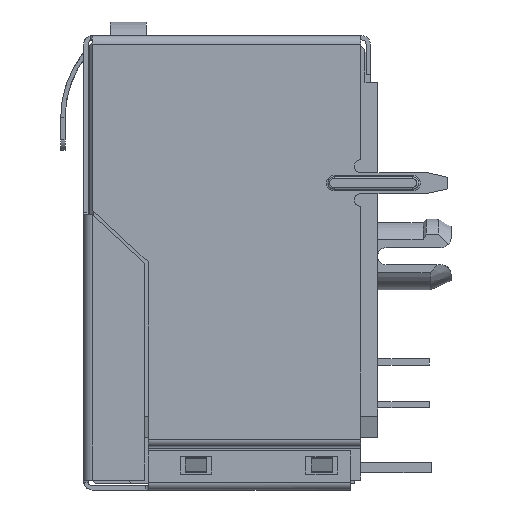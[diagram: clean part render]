
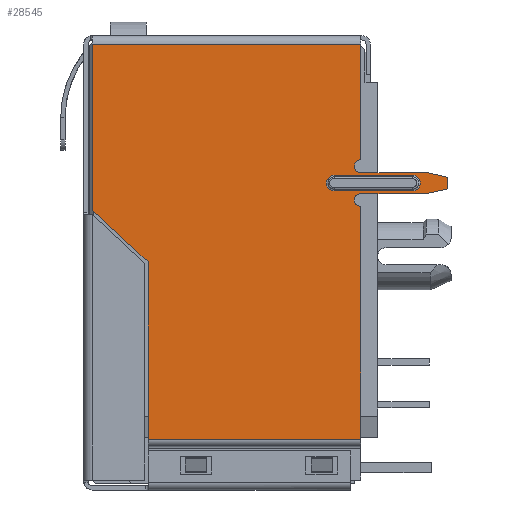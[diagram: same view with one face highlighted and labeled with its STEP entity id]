
A CAD part, left-side view. The second image highlights one B-rep face of the part: STEP entity #28545.
In plain terms, the highlighted planar face has unit normal (-1, 0, 0).
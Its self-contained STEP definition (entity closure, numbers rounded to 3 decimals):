
#5512=DIRECTION('',(0.,1.,0.));
#5513=VECTOR('',#5512,12.7);
#5514=CARTESIAN_POINT('',(-0.215,4.325,-0.15));
#5515=LINE('',#5514,#5513);
#5526=CARTESIAN_POINT('',(-0.215,4.325,-5.92));
#5527=DIRECTION('',(1.,0.,0.));
#5528=DIRECTION('',(0.,0.,-1.));
#5529=AXIS2_PLACEMENT_3D('',#5526,#5527,#5528);
#5531=DIRECTION('',(0.,0.976,0.22));
#5532=VECTOR('',#5531,1.025);
#5533=CARTESIAN_POINT('',(-0.215,0.205,-6.445));
#5534=LINE('',#5533,#5532);
#5535=DIRECTION('',(0.,-0.976,0.22));
#5536=VECTOR('',#5535,1.025);
#5537=CARTESIAN_POINT('',(-0.215,1.205,-7.22));
#5538=LINE('',#5537,#5536);
#5539=CARTESIAN_POINT('',(-0.215,4.325,-7.52));
#5540=DIRECTION('',(1.,0.,0.));
#5541=DIRECTION('',(0.,0.,-1.));
#5542=AXIS2_PLACEMENT_3D('',#5539,#5540,#5541);
#5544=DIRECTION('',(0.,-0.734,-0.679));
#5545=VECTOR('',#5544,3.596);
#5546=CARTESIAN_POINT('',(-0.215,17.025,-8.006));
#5547=LINE('',#5546,#5545);
#5548=DIRECTION('',(0.,0.,-1.));
#5549=VECTOR('',#5548,7.856);
#5550=CARTESIAN_POINT('',(-0.215,17.025,-0.15));
#5551=LINE('',#5550,#5549);
#5552=CARTESIAN_POINT('',(-0.215,1.88,-6.72));
#5553=DIRECTION('',(1.,0.,0.));
#5554=DIRECTION('',(0.,0.,1.));
#5555=AXIS2_PLACEMENT_3D('',#5552,#5553,#5554);
#5557=CARTESIAN_POINT('',(-0.215,5.58,-6.72));
#5558=DIRECTION('',(1.,0.,0.));
#5559=DIRECTION('',(0.,0.,-1.));
#5560=AXIS2_PLACEMENT_3D('',#5557,#5558,#5559);
#5570=DIRECTION('',(0.,0.,-1.));
#5571=VECTOR('',#5570,5.47);
#5572=CARTESIAN_POINT('',(-0.215,4.325,-0.15));
#5573=LINE('',#5572,#5571);
#5878=DIRECTION('',(0.,0.,-1.));
#5879=VECTOR('',#5878,11.02);
#5880=CARTESIAN_POINT('',(-0.215,4.325,-7.82));
#5881=LINE('',#5880,#5879);
#5886=DIRECTION('',(0.,0.,-1.));
#5887=VECTOR('',#5886,8.393);
#5888=CARTESIAN_POINT('',(-0.215,14.385,-10.447));
#5889=LINE('',#5888,#5887);
#5918=DIRECTION('',(0.,-1.,0.));
#5919=VECTOR('',#5918,10.06);
#5920=CARTESIAN_POINT('',(-0.215,14.385,-18.84));
#5921=LINE('',#5920,#5919);
#6210=DIRECTION('',(0.,1.,0.));
#6211=VECTOR('',#6210,3.12);
#6212=CARTESIAN_POINT('',(-0.215,1.205,-7.22));
#6213=LINE('',#6212,#6211);
#6226=DIRECTION('',(0.,0.,-1.));
#6227=VECTOR('',#6226,0.55);
#6228=CARTESIAN_POINT('',(-0.215,0.205,-6.445));
#6229=LINE('',#6228,#6227);
#6242=DIRECTION('',(0.,-1.,0.));
#6243=VECTOR('',#6242,3.12);
#6244=CARTESIAN_POINT('',(-0.215,4.325,-6.22));
#6245=LINE('',#6244,#6243);
#6330=DIRECTION('',(0.,-1.,0.));
#6331=VECTOR('',#6330,3.7);
#6332=CARTESIAN_POINT('',(-0.215,5.58,-7.093));
#6333=LINE('',#6332,#6331);
#6395=DIRECTION('',(0.,1.,0.));
#6396=VECTOR('',#6395,3.7);
#6397=CARTESIAN_POINT('',(-0.215,1.88,-6.347));
#6398=LINE('',#6397,#6396);
#17814=CARTESIAN_POINT('',(-0.215,17.025,-0.15));
#17815=VERTEX_POINT('',#17814);
#17816=CARTESIAN_POINT('',(-0.215,4.325,-0.15));
#17817=VERTEX_POINT('',#17816);
#17822=CARTESIAN_POINT('',(-0.215,17.025,-8.006));
#17823=VERTEX_POINT('',#17822);
#17832=CARTESIAN_POINT('',(-0.215,4.325,-6.22));
#17833=CARTESIAN_POINT('',(-0.215,4.325,-5.62));
#17834=VERTEX_POINT('',#17832);
#17835=VERTEX_POINT('',#17833);
#17836=CARTESIAN_POINT('',(-0.215,1.205,-6.22));
#17837=VERTEX_POINT('',#17836);
#17838=CARTESIAN_POINT('',(-0.215,0.205,-6.445));
#17839=VERTEX_POINT('',#17838);
#17840=CARTESIAN_POINT('',(-0.215,0.205,-6.995));
#17841=VERTEX_POINT('',#17840);
#17842=CARTESIAN_POINT('',(-0.215,1.205,-7.22));
#17843=VERTEX_POINT('',#17842);
#17844=CARTESIAN_POINT('',(-0.215,4.325,-7.22));
#17845=VERTEX_POINT('',#17844);
#17846=CARTESIAN_POINT('',(-0.215,4.325,-7.82));
#17847=VERTEX_POINT('',#17846);
#17848=CARTESIAN_POINT('',(-0.215,4.325,-18.84));
#17849=VERTEX_POINT('',#17848);
#17850=CARTESIAN_POINT('',(-0.215,14.385,-18.84));
#17851=VERTEX_POINT('',#17850);
#17852=CARTESIAN_POINT('',(-0.215,14.385,-10.447));
#17853=VERTEX_POINT('',#17852);
#17854=CARTESIAN_POINT('',(-0.215,5.58,-7.093));
#17855=CARTESIAN_POINT('',(-0.215,1.88,-7.093));
#17856=VERTEX_POINT('',#17854);
#17857=VERTEX_POINT('',#17855);
#17858=CARTESIAN_POINT('',(-0.215,1.88,-6.347));
#17859=VERTEX_POINT('',#17858);
#17860=CARTESIAN_POINT('',(-0.215,5.58,-6.347));
#17861=VERTEX_POINT('',#17860);
#28502=CARTESIAN_POINT('',(-0.215,8.615,-9.495));
#28503=DIRECTION('',(1.,0.,0.));
#28504=DIRECTION('',(0.,-1.,0.));
#28505=AXIS2_PLACEMENT_3D('',#28502,#28503,#28504);
#28506=PLANE('',#28505);
#28508=ORIENTED_EDGE('',*,*,#28507,.F.);
#28510=ORIENTED_EDGE('',*,*,#28509,.T.);
#28512=ORIENTED_EDGE('',*,*,#28511,.F.);
#28514=ORIENTED_EDGE('',*,*,#28513,.T.);
#28516=ORIENTED_EDGE('',*,*,#28515,.F.);
#28518=ORIENTED_EDGE('',*,*,#28517,.T.);
#28520=ORIENTED_EDGE('',*,*,#28519,.F.);
#28522=ORIENTED_EDGE('',*,*,#28521,.T.);
#28524=ORIENTED_EDGE('',*,*,#28523,.F.);
#28526=ORIENTED_EDGE('',*,*,#28525,.F.);
#28528=ORIENTED_EDGE('',*,*,#28527,.F.);
#28529=ORIENTED_EDGE('',*,*,#28489,.F.);
#28530=ORIENTED_EDGE('',*,*,#28477,.F.);
#28532=ORIENTED_EDGE('',*,*,#28531,.T.);
#28533=EDGE_LOOP('',(#28508,#28510,#28512,#28514,#28516,#28518,#28520,#28522,
#28524,#28526,#28528,#28529,#28530,#28532));
#28534=FACE_OUTER_BOUND('',#28533,.F.);
#28536=ORIENTED_EDGE('',*,*,#28535,.T.);
#28538=ORIENTED_EDGE('',*,*,#28537,.F.);
#28540=ORIENTED_EDGE('',*,*,#28539,.T.);
#28542=ORIENTED_EDGE('',*,*,#28541,.F.);
#28543=EDGE_LOOP('',(#28536,#28538,#28540,#28542));
#28544=FACE_BOUND('',#28543,.F.);
#28545=ADVANCED_FACE('',(#28534,#28544),#28506,.F.);
#5530=CIRCLE('',#5529,0.3);
#5543=CIRCLE('',#5542,0.3);
#5556=CIRCLE('',#5555,0.373);
#5561=CIRCLE('',#5560,0.373);
#28477=EDGE_CURVE('',#17817,#17815,#5515,.T.);
#28489=EDGE_CURVE('',#17815,#17823,#5551,.T.);
#28507=EDGE_CURVE('',#17834,#17835,#5530,.T.);
#28509=EDGE_CURVE('',#17834,#17837,#6245,.T.);
#28511=EDGE_CURVE('',#17839,#17837,#5534,.T.);
#28513=EDGE_CURVE('',#17839,#17841,#6229,.T.);
#28515=EDGE_CURVE('',#17843,#17841,#5538,.T.);
#28517=EDGE_CURVE('',#17843,#17845,#6213,.T.);
#28519=EDGE_CURVE('',#17847,#17845,#5543,.T.);
#28521=EDGE_CURVE('',#17847,#17849,#5881,.T.);
#28523=EDGE_CURVE('',#17851,#17849,#5921,.T.);
#28525=EDGE_CURVE('',#17853,#17851,#5889,.T.);
#28527=EDGE_CURVE('',#17823,#17853,#5547,.T.);
#28531=EDGE_CURVE('',#17817,#17835,#5573,.T.);
#28535=EDGE_CURVE('',#17856,#17857,#6333,.T.);
#28537=EDGE_CURVE('',#17859,#17857,#5556,.T.);
#28539=EDGE_CURVE('',#17859,#17861,#6398,.T.);
#28541=EDGE_CURVE('',#17856,#17861,#5561,.T.);
